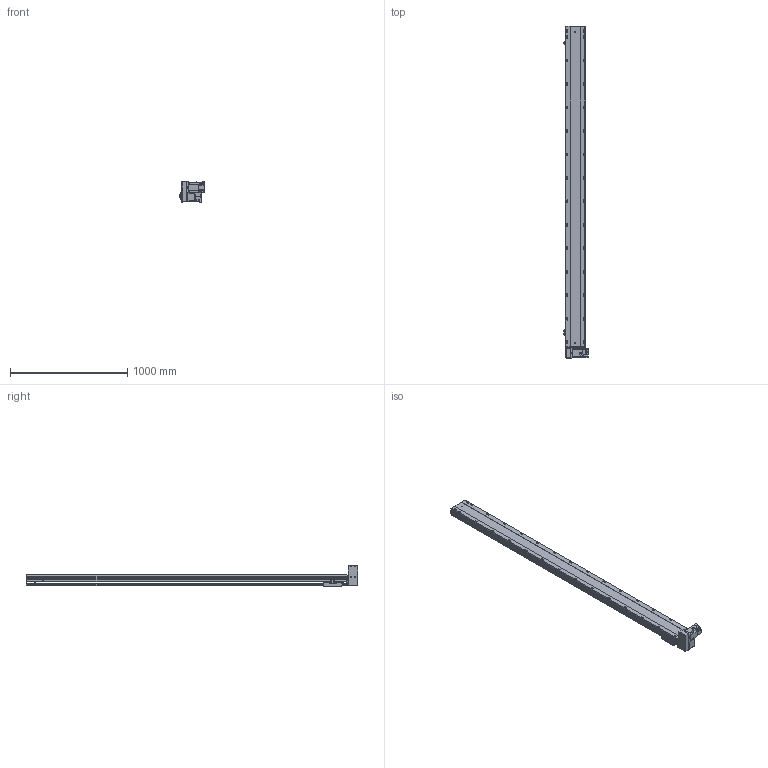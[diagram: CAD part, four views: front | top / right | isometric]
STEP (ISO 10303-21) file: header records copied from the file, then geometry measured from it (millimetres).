
FILE_DESCRIPTION (( 'STEP AP203' ), '1' );
FILE_NAME ('BTB17-L50-2450-RD-T75-C4.STEP', '2022-07-26T06:18:28', ( 'CXY' ), ( 'BT' ), 'SwSTEP 2.0', 'SolidWorks 2016', '' );
FILE_SCHEMA (( 'CONFIG_CONTROL_DESIGN' ));
Length unit declared in the file: millimetre
Products named in the file (10): BTB17-L-01; BTB17-L-HZ; BTB17-L-菁釱_XD; BTB17-L50-2450-RD-T75-C4; BTB17-L-06; BTB17-L-23; T75; BTB17-L-04; BTB17-L-02; BTB17-L-24
Assembly tree (12 placements, depth 2):
  BTB17-L50-2450-RD-T75-C4
    BTB17-L-菁釱_XD
    BTB17-L-01
    BTB17-L-04  x3
    BTB17-L-06
    BTB17-L-23  x2
    BTB17-L-24
    BTB17-L-HZ
    BTB17-L-02
    T75
Bounding box: 209 x 2829 x 176.5 mm (x, y, z)
Volume: 24107581.5 mm3; surface area: 3077718.4 mm2
Topology: 22 solids, 22 shells, 1732 faces, 4529 edges, 2850 vertices
Faces by surface type: plane 884, cylinder 636, cone 176, bspline 20, torus 16
Entity records: 44753 total; most frequent: CARTESIAN_POINT 8288, DIRECTION 7571, ORIENTED_EDGE 7154, EDGE_CURVE 3577, AXIS2_PLACEMENT_3D 2657, VERTEX_POINT 2318, VECTOR 2257, LINE 2257
